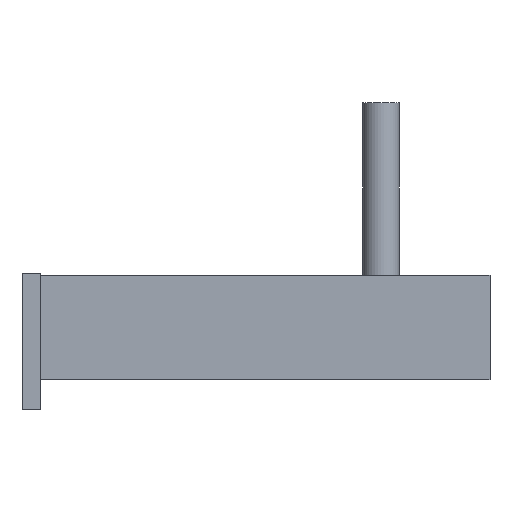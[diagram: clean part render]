
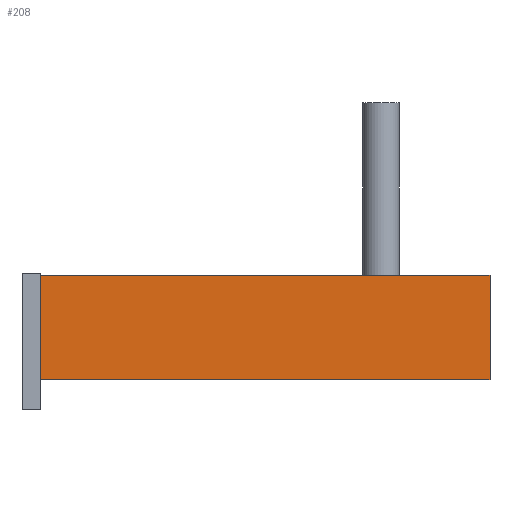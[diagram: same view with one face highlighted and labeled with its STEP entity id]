
A CAD part, front view. The second image highlights one B-rep face of the part: STEP entity #208.
In plain terms, the highlighted planar face has unit normal (0, -1, 0).
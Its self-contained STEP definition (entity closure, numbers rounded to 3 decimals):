
#208=ADVANCED_FACE('',(#432),#433,.T.);
#432=FACE_OUTER_BOUND('',#671,.T.);
#433=PLANE('',#672);
#671=EDGE_LOOP('',(#1213,#1214,#1215,#1216));
#672=AXIS2_PLACEMENT_3D('',#1217,#1218,#1219);
#1213=ORIENTED_EDGE('',*,*,#1572,.F.);
#1214=ORIENTED_EDGE('',*,*,#1550,.T.);
#1215=ORIENTED_EDGE('',*,*,#1573,.F.);
#1216=ORIENTED_EDGE('',*,*,#1565,.F.);
#1217=CARTESIAN_POINT('',(24.0,-9.5,-31.5));
#1218=DIRECTION('',(0.0,-1.0,0.));
#1219=DIRECTION('',(0.0,0.,1.0));
#1550=EDGE_CURVE('',#1890,#1888,#1891,.T.);
#1565=EDGE_CURVE('',#1908,#1911,#1912,.T.);
#1572=EDGE_CURVE('',#1890,#1908,#1920,.T.);
#1573=EDGE_CURVE('',#1911,#1888,#1921,.T.);
#1888=VERTEX_POINT('',#2346);
#1890=VERTEX_POINT('',#2349);
#1891=LINE('',#2350,#2351);
#1908=VERTEX_POINT('',#2376);
#1911=VERTEX_POINT('',#2380);
#1912=LINE('',#2381,#2382);
#1920=LINE('',#2394,#2395);
#1921=LINE('',#2396,#2397);
#2346=CARTESIAN_POINT('',(-75.0,-9.5,0.));
#2349=CARTESIAN_POINT('',(24.0,-9.5,0.));
#2350=CARTESIAN_POINT('',(24.0,-9.5,0.));
#2351=VECTOR('',#2703,1.0);
#2376=CARTESIAN_POINT('',(24.0,-9.5,-23.0));
#2380=CARTESIAN_POINT('',(-75.0,-9.5,-23.0));
#2381=CARTESIAN_POINT('',(24.0,-9.5,-23.0));
#2382=VECTOR('',#2713,1.0);
#2394=CARTESIAN_POINT('',(24.0,-9.5,0.));
#2395=VECTOR('',#2718,1.0);
#2396=CARTESIAN_POINT('',(-75.0,-9.5,0.));
#2397=VECTOR('',#2719,1.0);
#2703=DIRECTION('',(-1.0,-0.0,0.0));
#2713=DIRECTION('',(-1.0,-0.0,0.0));
#2718=DIRECTION('',(0.0,0.,-1.0));
#2719=DIRECTION('',(0.0,0.,1.0));
